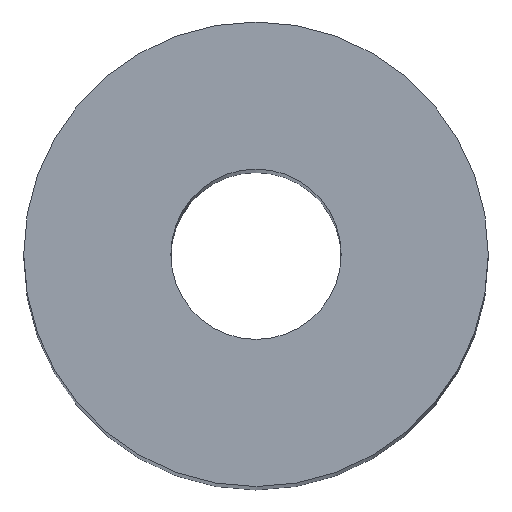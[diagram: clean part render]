
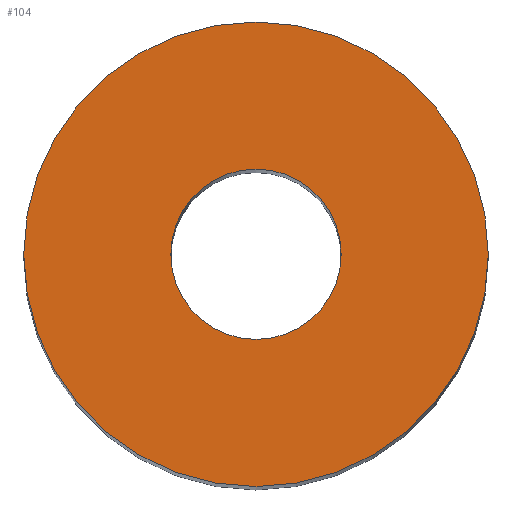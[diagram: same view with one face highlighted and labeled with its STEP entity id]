
A CAD part, top view. The second image highlights one B-rep face of the part: STEP entity #104.
In plain terms, the highlighted planar face has unit normal (0, 0, 1).
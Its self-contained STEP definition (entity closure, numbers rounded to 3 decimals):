
#21 = EDGE_CURVE('',#22,#22,#24,.T.);
#22 = VERTEX_POINT('',#23);
#23 = CARTESIAN_POINT('',(-28.5,-48.,73.));
#24 = SURFACE_CURVE('',#25,(#30,#42),.PCURVE_S1.);
#25 = CIRCLE('',#26,4.5);
#26 = AXIS2_PLACEMENT_3D('',#27,#28,#29);
#27 = CARTESIAN_POINT('',(-33.,-48.,73.));
#28 = DIRECTION('',(0.,0.,1.));
#29 = DIRECTION('',(1.,0.,0.));
#30 = PCURVE('',#31,#36);
#31 = CYLINDRICAL_SURFACE('',#32,4.5);
#32 = AXIS2_PLACEMENT_3D('',#33,#34,#35);
#33 = CARTESIAN_POINT('',(-33.,-48.,35.));
#34 = DIRECTION('',(0.,0.,1.));
#35 = DIRECTION('',(1.,0.,0.));
#36 = DEFINITIONAL_REPRESENTATION('',(#37),#41);
#37 = LINE('',#38,#39);
#38 = CARTESIAN_POINT('',(0.,38.));
#39 = VECTOR('',#40,1.);
#40 = DIRECTION('',(1.,0.));
#41 = ( GEOMETRIC_REPRESENTATION_CONTEXT(2) 
PARAMETRIC_REPRESENTATION_CONTEXT() REPRESENTATION_CONTEXT('2D SPACE',''
  ) );
#42 = PCURVE('',#43,#48);
#43 = PLANE('',#44);
#44 = AXIS2_PLACEMENT_3D('',#45,#46,#47);
#45 = CARTESIAN_POINT('',(-33.,-48.,73.));
#46 = DIRECTION('',(0.,0.,1.));
#47 = DIRECTION('',(1.,0.,0.));
#48 = DEFINITIONAL_REPRESENTATION('',(#49),#53);
#49 = CIRCLE('',#50,4.5);
#50 = AXIS2_PLACEMENT_2D('',#51,#52);
#51 = CARTESIAN_POINT('',(0.,0.));
#52 = DIRECTION('',(1.,0.));
#53 = ( GEOMETRIC_REPRESENTATION_CONTEXT(2) 
PARAMETRIC_REPRESENTATION_CONTEXT() REPRESENTATION_CONTEXT('2D SPACE',''
  ) );
#104 = ADVANCED_FACE('',(#105,#108),#43,.T.);
#105 = FACE_BOUND('',#106,.T.);
#106 = EDGE_LOOP('',(#107));
#107 = ORIENTED_EDGE('',*,*,#21,.T.);
#108 = FACE_BOUND('',#109,.T.);
#109 = EDGE_LOOP('',(#110));
#110 = ORIENTED_EDGE('',*,*,#111,.F.);
#111 = EDGE_CURVE('',#112,#112,#114,.T.);
#112 = VERTEX_POINT('',#113);
#113 = CARTESIAN_POINT('',(-31.35,-48.,73.));
#114 = SURFACE_CURVE('',#115,(#120,#127),.PCURVE_S1.);
#115 = CIRCLE('',#116,1.65);
#116 = AXIS2_PLACEMENT_3D('',#117,#118,#119);
#117 = CARTESIAN_POINT('',(-33.,-48.,73.));
#118 = DIRECTION('',(0.,0.,1.));
#119 = DIRECTION('',(1.,0.,0.));
#120 = PCURVE('',#43,#121);
#121 = DEFINITIONAL_REPRESENTATION('',(#122),#126);
#122 = CIRCLE('',#123,1.65);
#123 = AXIS2_PLACEMENT_2D('',#124,#125);
#124 = CARTESIAN_POINT('',(0.,0.));
#125 = DIRECTION('',(1.,0.));
#126 = ( GEOMETRIC_REPRESENTATION_CONTEXT(2) 
PARAMETRIC_REPRESENTATION_CONTEXT() REPRESENTATION_CONTEXT('2D SPACE',''
  ) );
#127 = PCURVE('',#128,#133);
#128 = CYLINDRICAL_SURFACE('',#129,1.65);
#129 = AXIS2_PLACEMENT_3D('',#130,#131,#132);
#130 = CARTESIAN_POINT('',(-33.,-48.,35.));
#131 = DIRECTION('',(0.,0.,1.));
#132 = DIRECTION('',(1.,0.,0.));
#133 = DEFINITIONAL_REPRESENTATION('',(#134),#138);
#134 = LINE('',#135,#136);
#135 = CARTESIAN_POINT('',(0.,38.));
#136 = VECTOR('',#137,1.);
#137 = DIRECTION('',(1.,0.));
#138 = ( GEOMETRIC_REPRESENTATION_CONTEXT(2) 
PARAMETRIC_REPRESENTATION_CONTEXT() REPRESENTATION_CONTEXT('2D SPACE',''
  ) );
